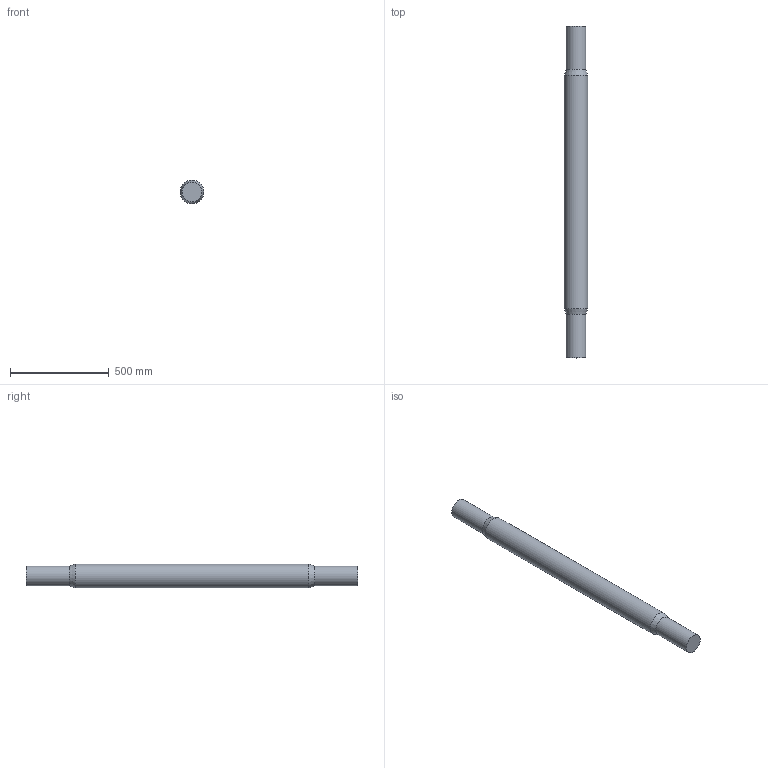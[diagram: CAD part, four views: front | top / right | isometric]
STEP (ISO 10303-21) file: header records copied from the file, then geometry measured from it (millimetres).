
FILE_DESCRIPTION(('Open CASCADE Model'),'2;1');
FILE_NAME('Open CASCADE Shape Model','2026-10-19T10:06:07',('Author'),( 'Open CASCADE'),'Open CASCADE STEP processor 7.8','Open CASCADE 7.8' ,'Unknown');
FILE_SCHEMA(('AUTOMOTIVE_DESIGN { 1 0 10303 214 1 1 1 1 }'));
Length unit declared in the file: millimetre
Products named in the file (1): Open CASCADE STEP translator 7.8 14
Bounding box: 120 x 1680 x 120 mm (x, y, z)
Volume: 17373007.4 mm3; surface area: 620643.7 mm2
Topology: 1 solids, 1 shells, 7 faces, 11 edges, 6 vertices
Faces by surface type: cylinder 3, cone 2, plane 2
Full cylindrical faces by diameter (mm): 100 x2, 120 x1
Entity records: 308 total; most frequent: CARTESIAN_POINT 51, DIRECTION 51, ORIENTED_EDGE 22, PCURVE 22, DEFINITIONAL_REPRESENTATION 22, LINE 21, VECTOR 21, AXIS2_PLACEMENT_3D 14
